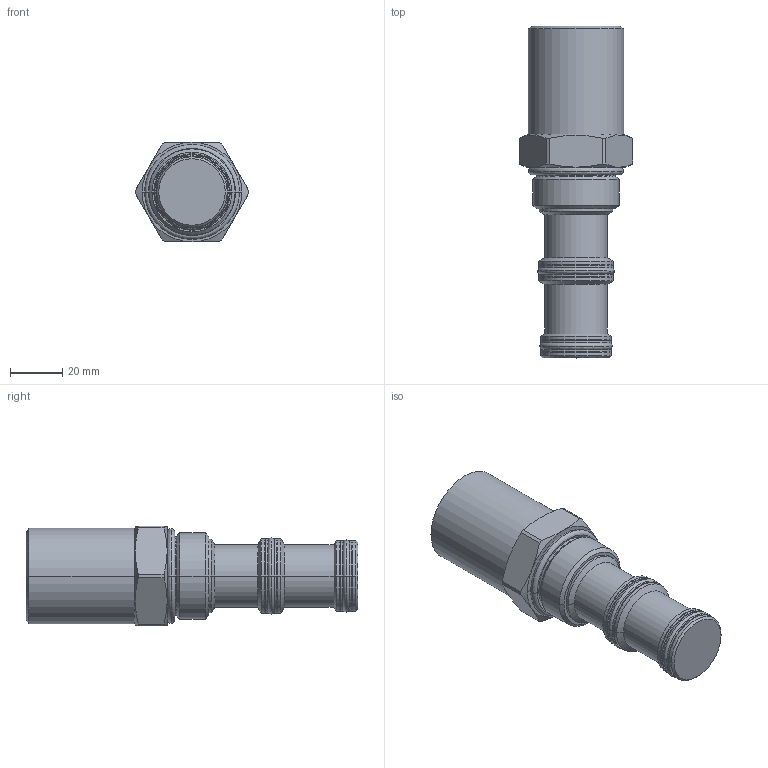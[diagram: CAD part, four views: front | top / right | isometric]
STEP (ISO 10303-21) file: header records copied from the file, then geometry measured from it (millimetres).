
FILE_DESCRIPTION((''),'2;1');
FILE_NAME('5439700_SW0001','2009-01-30T',('jcs'),(''),'PRO/ENGINEER BY PARAMETRIC TECHNOLOGY CORPORATION, 2008010','PRO/ENGINEER BY PARAMETRIC TECHNOLOGY CORPORATION, 2008010','');
FILE_SCHEMA(('CONFIG_CONTROL_DESIGN'));
Length unit declared in the file: inch
Products named in the file (1): 5439700_SW0001
Bounding box: 43.23 x 126.87 x 38.1 mm (x, y, z)
Volume: 100960.8 mm3; surface area: 19944.6 mm2
Topology: 8 solids, 8 shells, 143 faces, 298 edges, 166 vertices
Faces by surface type: cylinder 46, cone 36, revolution 24, torus 20, plane 17
Entity records: 4276 total; most frequent: CARTESIAN_POINT 1151, DIRECTION 692, ORIENTED_EDGE 596, EDGE_CURVE 298, AXIS2_PLACEMENT_3D 293, CIRCLE 174, VERTEX_POINT 166, EDGE_LOOP 152
